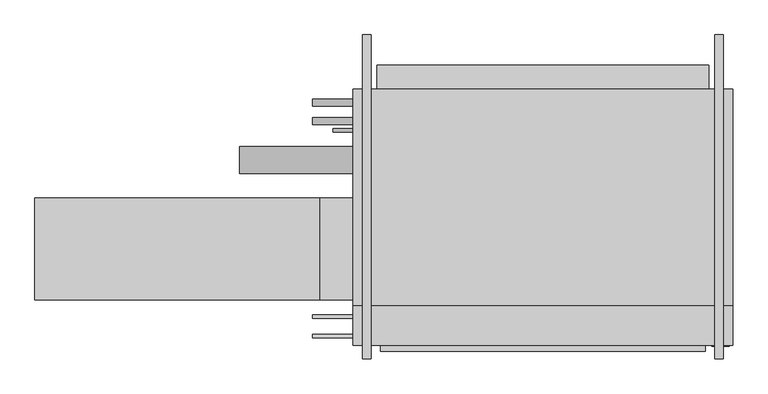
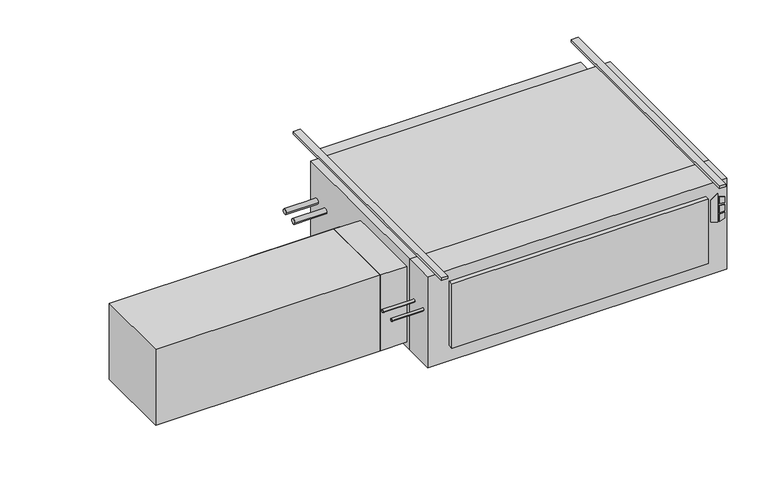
"""IFC4 building model written with IfcOpenShell, lengths in millimetres: proxy geometry."""

from ifc_helpers import new_model, si_unit, point, frame, frame_2d, origin, origin_with_axes, place, context, project, spatial, polyline, circle_curve, trimmed, segment, composite_curve, outline, extrude, source, transform, mapped, element, save


def mechanical_equipment_6f1a1475(model_context):
    return source(origin(), model_context, "Body", "SweptSolid", [
        extrude(outline(polyline([(-193.2519297, 785.8868862), (-203.2, 818.0602728), (-61.0290756, 818.0602728), (-84.0510817, 785.8868862), (-193.2519297, 785.8868862)])), frame((0.0, -797.052, 0.0), z_axis=(0.0, 1.0, 0.0), x_axis=(0.0, 0.0, 1.0)), (0.0, 0.0, 1.0), 3.175),
        extrude(outline(polyline([(-114.2526443, 824.8186058), (-117.4550368, 850.9), (-88.2261958, 850.9), (-80.1617807, 824.8186058), (-114.2526443, 824.8186058)])), frame((0.0, -797.052, 0.0), z_axis=(0.0, 1.0, 0.0), x_axis=(0.0, 0.0, 1.0)), (0.0, 0.0, 1.0), 3.175),
        extrude(outline(polyline([(-166.1161712, 850.9), (-169.7816721, 824.8186058), (-203.2, 824.8186058), (-194.5657628, 850.9), (-166.1161712, 850.9)])), frame((0.0, -797.052, 0.0), z_axis=(0.0, 1.0, 0.0), x_axis=(0.0, 0.0, 1.0)), (0.0, 0.0, 1.0), 3.175),
        extrude(outline(polyline([(-126.8010097, 850.9), (-124.5191834, 824.8186058), (-160.4567319, 824.8186058), (-157.7154669, 850.9), (-126.8010097, 850.9)])), frame((0.0, -797.052, 0.0), z_axis=(0.0, 1.0, 0.0), x_axis=(0.0, 0.0, 1.0)), (0.0, 0.0, 1.0), 3.175),
        extrude(outline(polyline([(863.6, -793.877), (-558.8, -793.877), (-558.8, -644.525), (863.6, -644.525), (863.6, -793.877)])), frame((0.0, 0.0, -457.2), z_axis=(0.0, 0.0, 1.0), x_axis=(1.0, 0.0, 0.0)), (0.0, 0.0, 1.0), 457.2),
        extrude(outline(polyline([(762.0, -816.229), (-457.2, -816.229), (-457.2, -793.877), (762.0, -793.877), (762.0, -816.229)])), frame((0.0, 0.0, -381.0), z_axis=(0.0, 0.0, 1.0), x_axis=(1.0, 0.0, 0.0)), (0.0, 0.0, 1.0), 323.85),
        extrude(outline(polyline([(-1752.6, -622.3), (-1752.6, -241.3), (-685.8, -241.3), (-685.8, -622.3), (-1752.6, -622.3)])), frame((0.0, 0.0, -431.8), z_axis=(0.0, 0.0, 1.0), x_axis=(1.0, 0.0, 0.0)), (0.0, 0.0, 1.0), 381.0),
        extrude(outline(polyline([(-558.8, -241.3), (-558.8, -622.3), (-685.8, -622.3), (-685.8, -241.3), (-558.8, -241.3)])), frame((0.0, 0.0, -431.8), z_axis=(0.0, 0.0, 1.0), x_axis=(1.0, 0.0, 0.0)), (0.0, 0.0, 1.0), 381.0),
        extrude(outline(composite_curve([segment(trimmed(circle_curve(frame_2d((-758.825, -184.15)), 6.35), [point((-765.175, -184.15))], [point((-752.475, -184.15))], False, "CARTESIAN"), True, "CONTINUOUS"), segment(trimmed(circle_curve(frame_2d((-758.825, -184.15)), 6.35), [point((-752.475, -184.15))], [point((-765.175, -184.15))], False, "CARTESIAN"), True, "CONTINUOUS")], self_intersect=False)), frame((-711.2, 0.0, 0.0), z_axis=(1.0, 0.0, 0.0), x_axis=(0.0, 1.0, 0.0)), (0.0, 0.0, 1.0), 152.4),
        extrude(outline(composite_curve([segment(trimmed(circle_curve(frame_2d((-685.8, -184.15)), 6.35), [point((-692.15, -184.15))], [point((-679.45, -184.15))], False, "CARTESIAN"), True, "CONTINUOUS"), segment(trimmed(circle_curve(frame_2d((-685.8, -184.15)), 6.35), [point((-679.45, -184.15))], [point((-692.15, -184.15))], False, "CARTESIAN"), True, "CONTINUOUS")], self_intersect=False)), frame((-711.2, 0.0, 0.0), z_axis=(1.0, 0.0, 0.0), x_axis=(0.0, 1.0, 0.0)), (0.0, 0.0, 1.0), 152.4),
        extrude(outline(composite_curve([segment(trimmed(circle_curve(frame_2d((-98.4896516, -228.6360165)), 50.8), [point((-149.2896516, -228.6360165))], [point((-47.6896516, -228.6360165))], False, "CARTESIAN"), True, "CONTINUOUS"), segment(trimmed(circle_curve(frame_2d((-98.4896516, -228.6360165)), 50.8), [point((-47.6896516, -228.6360165))], [point((-149.2896516, -228.6360165))], False, "CARTESIAN"), True, "CONTINUOUS")], self_intersect=False)), frame((-984.25, 0.0, 0.0), z_axis=(1.0, 0.0, 0.0), x_axis=(0.0, 1.0, 0.0)), (0.0, 0.0, 1.0), 425.45),
        extrude(outline(composite_curve([segment(trimmed(circle_curve(frame_2d((47.625, -177.8)), 12.7), [point((34.925, -177.8))], [point((60.325, -177.8))], False, "CARTESIAN"), True, "CONTINUOUS"), segment(trimmed(circle_curve(frame_2d((47.625, -177.8)), 12.7), [point((60.325, -177.8))], [point((34.925, -177.8))], False, "CARTESIAN"), True, "CONTINUOUS")], self_intersect=False)), frame((-711.2, 0.0, 0.0), z_axis=(1.0, 0.0, 0.0), x_axis=(0.0, 1.0, 0.0)), (0.0, 0.0, 1.0), 152.4),
        extrude(outline(composite_curve([segment(trimmed(circle_curve(frame_2d((117.475, -171.45)), 12.7), [point((104.775, -171.45))], [point((130.175, -171.45))], False, "CARTESIAN"), True, "CONTINUOUS"), segment(trimmed(circle_curve(frame_2d((117.475, -171.45)), 12.7), [point((130.175, -171.45))], [point((104.775, -171.45))], False, "CARTESIAN"), True, "CONTINUOUS")], self_intersect=False)), frame((-711.2, 0.0, 0.0), z_axis=(1.0, 0.0, 0.0), x_axis=(0.0, 1.0, 0.0)), (0.0, 0.0, 1.0), 152.4),
        extrude(outline(composite_curve([segment(trimmed(circle_curve(frame_2d((12.7, -409.575)), 6.35), [point((6.35, -409.575))], [point((19.05, -409.575))], False, "CARTESIAN"), True, "CONTINUOUS"), segment(trimmed(circle_curve(frame_2d((12.7, -409.575)), 6.35), [point((19.05, -409.575))], [point((6.35, -409.575))], False, "CARTESIAN"), True, "CONTINUOUS")], self_intersect=False)), frame((-635.0, 0.0, 0.0), z_axis=(1.0, 0.0, 0.0), x_axis=(0.0, 1.0, 0.0)), (0.0, 0.0, 1.0), 76.2),
        extrude(outline(polyline([(863.6, 168.275), (863.6, -644.525), (-558.8, -644.525), (-558.8, 168.275), (863.6, 168.275)])), frame((0.0, 0.0, -457.2), z_axis=(0.0, 0.0, 1.0), x_axis=(1.0, 0.0, 0.0)), (0.0, 0.0, 1.0), 457.2),
        extrude(outline(polyline([(-469.9, 257.175), (774.7, 257.175), (774.7, 168.275), (-469.9, 168.275), (-469.9, 257.175)])), frame((0.0, 0.0, -381.0), z_axis=(0.0, 0.0, 1.0), x_axis=(1.0, 0.0, 0.0)), (0.0, 0.0, 1.0), 355.6),
        extrude(outline(polyline([(-492.125, 371.475), (-492.125, -844.677), (-523.875, -844.677), (-523.875, 371.475), (-492.125, 371.475)])), origin_with_axes(), (0.0, 0.0, 1.0), 12.7),
        extrude(outline(polyline([(828.675, 371.475), (828.675, -844.677), (796.925, -844.677), (796.925, 371.475), (828.675, 371.475)])), origin_with_axes(), (0.0, 0.0, 1.0), 12.7),
    ])


if __name__ == "__main__":
    model = new_model("IFC4")
    model_context = context("Model", 3, world=origin())
    ifc_project = project(units=[si_unit("LENGTHUNIT", "METRE", prefix="MILLI")], contexts=[model_context])
    site = spatial("IfcSite", under=ifc_project)
    building = spatial("IfcBuilding", under=site)
    placement = place(None, origin())
    mechanical_equipment_shape = mechanical_equipment_6f1a1475(model_context)
    element("IfcBuildingElementProxy", 1, Name="High_Capacity_Horizontal_Cabinet_Fan_Coil_Unit_-_HTY_-_IEC_-_4-Pipe_WO-Attenuator_LH Side_2022 : Size 20 - 115v/60Hz/1Ph - 4/1 Coil - 4\" AirIn", ObjectType="High_Capacity_Horizontal_Cabinet_Fan_Coil_Unit_-_HTY_-_IEC_-_4-Pipe_WO-Attenuator_LH Side_2022 : Size 20 - 115v/60Hz/1Ph - 4/1 Coil - 4\" AirIn", at=placement, inside=building, context=model_context, shape_type="MappedRepresentation", body=[
        mapped(mechanical_equipment_shape, transform((0.0, 0.0, 0.0), x_axis=(1.0, 0.0, 0.0), y_axis=(0.0, 1.0, 0.0), z_axis=(0.0, 0.0, 1.0))),
    ])
    save(model, "model.ifc")
